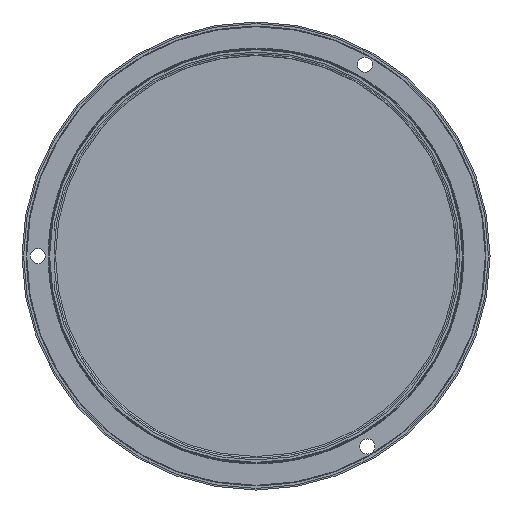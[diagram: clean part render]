
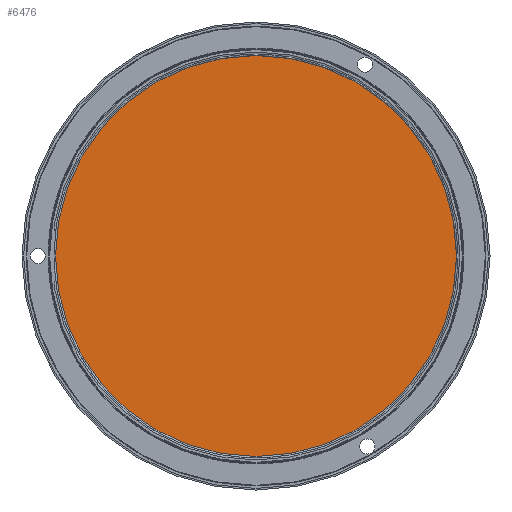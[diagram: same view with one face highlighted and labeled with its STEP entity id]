
A CAD part, front view. The second image highlights one B-rep face of the part: STEP entity #6476.
In plain terms, the highlighted planar face has unit normal (0, -1, 0).
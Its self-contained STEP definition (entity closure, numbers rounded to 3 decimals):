
#498=PLANE('',#7121);
#2236=FACE_OUTER_BOUND('',#2660,.T.);
#2660=EDGE_LOOP('',(#6071));
#2859=CIRCLE('',#7119,257.043);
#3430=VERTEX_POINT('',#12811);
#4311=EDGE_CURVE('',#3430,#3430,#2859,.T.);
#6071=ORIENTED_EDGE('',*,*,#4311,.F.);
#6476=ADVANCED_FACE('',(#2236),#498,.T.);
#7119=AXIS2_PLACEMENT_3D('',#12813,#8928,#8929);
#7121=AXIS2_PLACEMENT_3D('',#12815,#8932,#8933);
#8928=DIRECTION('center_axis',(0.,1.,0.));
#8929=DIRECTION('ref_axis',(1.,0.,0.));
#8932=DIRECTION('center_axis',(0.,-1.,0.));
#8933=DIRECTION('ref_axis',(0.,0.,-1.));
#12811=CARTESIAN_POINT('',(0.,32.962,-257.043));
#12813=CARTESIAN_POINT('Origin',(0.,32.962,0.));
#12815=CARTESIAN_POINT('Origin',(0.,32.962,257.043));
